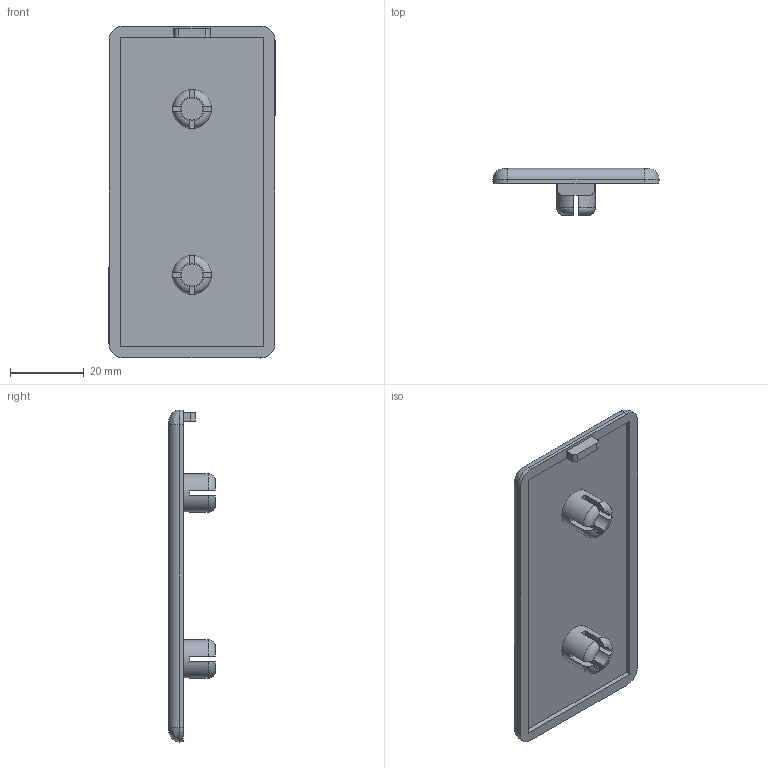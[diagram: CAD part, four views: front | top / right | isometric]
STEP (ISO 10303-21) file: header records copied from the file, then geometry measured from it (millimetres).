
FILE_DESCRIPTION(/* description */ ('STEP AP203'),/* implementation_level */ '2;1');
FILE_NAME(/* name */ 'Plastic End Cap - 45 Series - 45x90.step',/* time_stamp */ '2025-05-14T19:20:04+03:00',/* author */ (''),/* organization */ (''),/* preprocessor_version */ 'ST-DEVELOPER v20.1',/* originating_system */ 'Autodesk Translation Framework v14.4.0.0',/* authorisation */ '');
FILE_SCHEMA (('AUTOMOTIVE_DESIGN { 1 0 10303 214 3 1 1 }'));
Length unit declared in the file: millimetre
Products named in the file (1): 375.0600A
Bounding box: 45 x 12.7 x 90 mm (x, y, z)
Volume: 12392.6 mm3; surface area: 10237.2 mm2
Topology: 1 solids, 1 shells, 75 faces, 202 edges, 132 vertices
Faces by surface type: plane 49, cylinder 14, torus 8, bspline 4
Full cylindrical faces by diameter (mm): 6 x2, 10.5 x2
Entity records: 2525 total; most frequent: CARTESIAN_POINT 586, ORIENTED_EDGE 404, DIRECTION 402, EDGE_CURVE 202, AXIS2_PLACEMENT_3D 144, VERTEX_POINT 132, LINE 114, VECTOR 114
